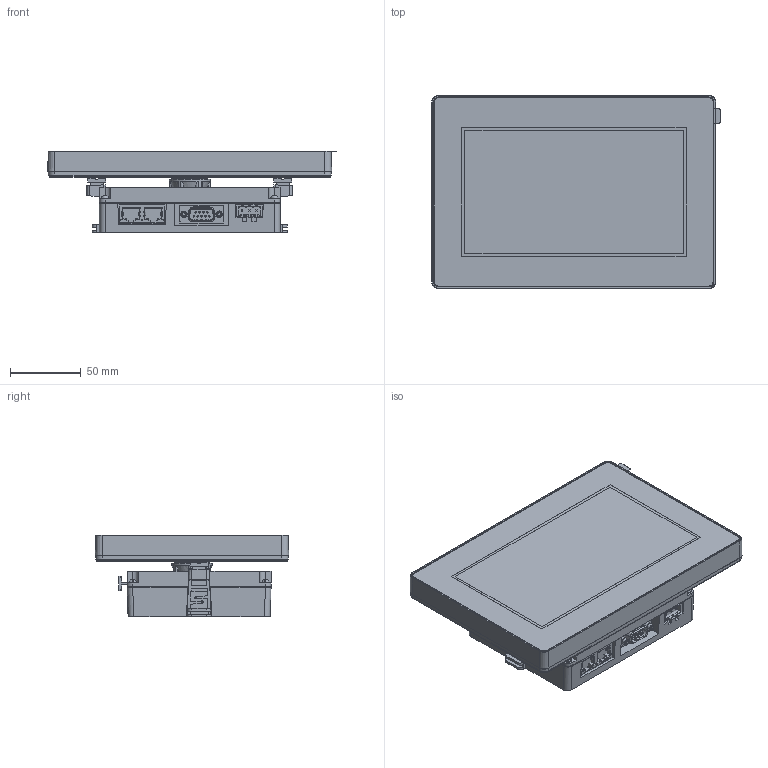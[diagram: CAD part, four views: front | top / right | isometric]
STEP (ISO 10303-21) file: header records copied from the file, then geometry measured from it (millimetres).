
FILE_DESCRIPTION((''),'2;1');
FILE_NAME('MFR4801601_ASM_PF_7_FULL_MODULE_ASM','2020-05-20T10:17:03',('danae.lavaud'),(''),'CREO PARAMETRIC BY PTC INC, 2018260','CREO PARAMETRIC BY PTC INC, 2018260','');
FILE_SCHEMA(('AUTOMOTIVE_DESIGN { 1 0 10303 214 1 1 1 1 }'));
Products named in the file (44): PRT0006_1_1_1_1_1; PRT0007_2_1_1_1_1; MFR4362301_1_1_1_1; SIMPLIFIED_ASM_1_ASM_1_ASM_-459_ASM; MFR4097901_ASM_SE_4_3_FRONT_MOD_ASM; MFR7577101_1_1_1_1_1; MFR4179401_1_1_1_1_1; PRT0006_1_2_1_1_1; PRT0006_1_3_1_1_1; PRT0006_1_ASM_1_ASM_1_ASM_1_ASM; MFR6004601_1_1_1_1_1_1_1_1_1_1_; PRT0005_3_1_1_1_1_1_1_1_1_1_1; PRT0005_3_2_1_1_1_1_1_1_1_1_1; PRT0005_3_ASM_1_ASM_1_ASM_1_ASM_ASM; MANIFOLD_SOLID_BREP_68517_1_1_1; MANIFOLD_SOLID_BREP_68571_1_1_1; PRT0006_3_1_1_1_1_1_ASM_1_ASM_1_ASM; PRT0007_1_1_1_1_1_1_1_1_1_1_1; PRT0007_1_2_1_1_1_1_1_1_1_1_1; PRT0007_1_3_1_1_1_1_1_1_1_1_1; PRT0007_1_4_1_1_1_1_1_1_1_1_1; PRT0007_1_ASM_1_ASM_1_ASM_1_ASM_ASM; PRT0008_1_1_1_1_1_1_1_1_1_1_1; PRT0008_1_2_1_1_1_1_1_1_1_1_1; PRT0008_1_ASM_1_ASM_1_ASM_1_ASM_ASM; PRT0009_2_1_1_1_1_1_1_1_1_1; SIMPLIFIED_ASM_3_ASM_1_ASM_1__1_ASM; HUA20681_COPY_1_1_1_1_1_1_1_1_1; C-6368214-8-A-3D_COPY_1_1_1_1_1; HUA19867_MIG17_1_1_1_1_1_1_1_1_; BBV5932501_1_1_1_1_1_1_1_1_1_1; AURORA_MICROB_1_1_1_1_1_1_1_1_1; PRT0005_1_1_1_1_1_1_1_1_1_1; AU2_22_REAR_MODULE_PCB_ASM_1__1_ASM; PRT0006_1_1_1_1_1_1_1_1_1_1; PRT0006_1_2_1_1_1_1_1_1_1_1; PRT0006_1_ASM_1_ASM_1_ASM_1_ASM_ASM; ASM0002_ASM_1_ASM_1_ASM_1-48952_ASM; D09P33E6RV09LFC_COPY_1_1_1_1_1_; ASM0002_ASM_1_ASM_1_ASM_-103527_ASM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
Assembly tree (43 placements, depth 9):
  MFR4801601_ASM_PF_7_FULL_MODULE_ASM
    MFR4801601_ASM_PF_7_FULL_MODU_1_ASM
      SIMPLIFIED_ASM_1_ASM_1_AS-14221_ASM
        MFR4097901_ASM_SE_4_3_FRONT_MOD_ASM
          SIMPLIFIED_ASM_1_ASM_1_ASM_-459_ASM
            PRT0006_1_1_1_1_1
            PRT0007_2_1_1_1_1
            MFR4362301_1_1_1_1
        MFR7577101_1_1_1_1_1
        MFR4179401_1_1_1_1_1
        PRT0006_1_ASM_1_ASM_1_ASM_1_ASM
          PRT0006_1_2_1_1_1
          PRT0006_1_3_1_1_1
        MFR4176701_ASM_PF_REAR_MODULE_0_ASM
          ASM0002_ASM_1_ASM_1_ASM_-103527_ASM
            ASM0002_ASM_1_ASM_1_ASM_1-48952_ASM
              SIMPLIFIED_ASM_3_ASM_1_ASM_1__1_ASM
                MFR6004601_1_1_1_1_1_1_1_1_1_1_
                PRT0005_3_ASM_1_ASM_1_ASM_1_ASM_ASM
                  PRT0005_3_1_1_1_1_1_1_1_1_1_1
                  PRT0005_3_2_1_1_1_1_1_1_1_1_1
                PRT0006_3_1_1_1_1_1_ASM_1_ASM_1_ASM
                  MANIFOLD_SOLID_BREP_68517_1_1_1
                  MANIFOLD_SOLID_BREP_68571_1_1_1
                PRT0007_1_ASM_1_ASM_1_ASM_1_ASM_ASM
                  PRT0007_1_1_1_1_1_1_1_1_1_1_1
                  PRT0007_1_2_1_1_1_1_1_1_1_1_1
                  PRT0007_1_3_1_1_1_1_1_1_1_1_1
                  PRT0007_1_4_1_1_1_1_1_1_1_1_1
                PRT0008_1_ASM_1_ASM_1_ASM_1_ASM_ASM
                  PRT0008_1_1_1_1_1_1_1_1_1_1_1
                  PRT0008_1_2_1_1_1_1_1_1_1_1_1
                PRT0009_2_1_1_1_1_1_1_1_1_1
              AU2_22_REAR_MODULE_PCB_ASM_1__1_ASM
                HUA20681_COPY_1_1_1_1_1_1_1_1_1
                C-6368214-8-A-3D_COPY_1_1_1_1_1
                HUA19867_MIG17_1_1_1_1_1_1_1_1_
                BBV5932501_1_1_1_1_1_1_1_1_1_1
                AURORA_MICROB_1_1_1_1_1_1_1_1_1
                PRT0005_1_1_1_1_1_1_1_1_1_1
              PRT0006_1_ASM_1_ASM_1_ASM_1_ASM_ASM
                PRT0006_1_1_1_1_1_1_1_1_1_1
                PRT0006_1_2_1_1_1_1_1_1_1_1
            D09P33E6RV09LFC_COPY_1_1_1_1_1_
Bounding box: 204.38 x 137.16 x 58.03 mm (x, y, z)
Volume: 889983.5 mm3; surface area: 338748.1 mm2
Topology: 27 solids, 28 shells, 3215 faces, 8749 edges, 5703 vertices
Faces by surface type: plane 2504, cylinder 553, cone 70, bspline 42, extrusion 24, torus 22
Entity records: 106228 total; most frequent: CARTESIAN_POINT 22162, ORIENTED_EDGE 17462, DIRECTION 16520, EDGE_CURVE 8731, VECTOR 6416, LINE 6392, VERTEX_POINT 5703, AXIS2_PLACEMENT_3D 5052
